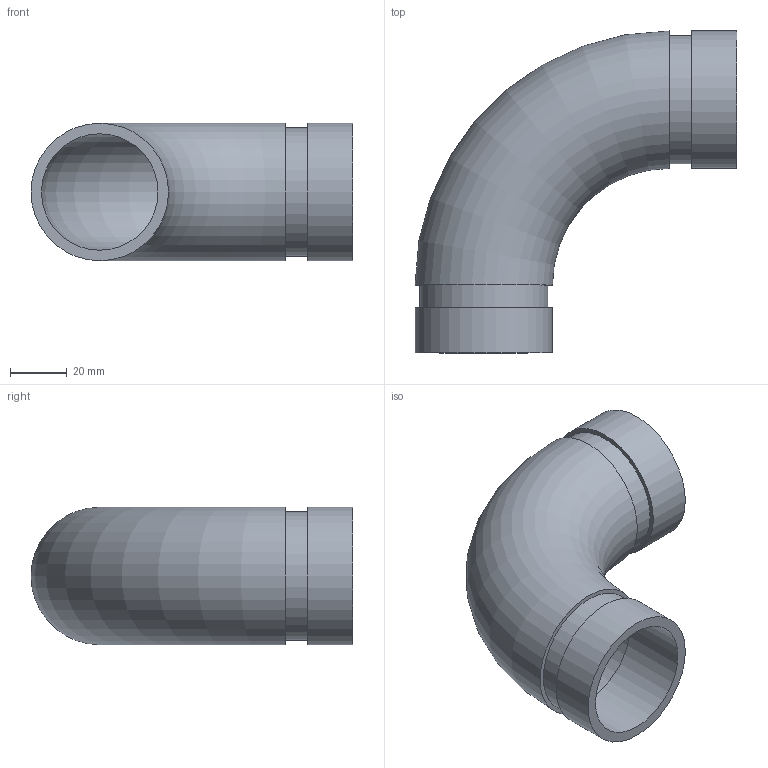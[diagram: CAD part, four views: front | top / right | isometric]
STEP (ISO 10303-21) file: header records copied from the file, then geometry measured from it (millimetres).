
FILE_DESCRIPTION(/* description */ ('VIC SS ELBOW 90 DEG LR No 410DX (OGS)'),/* implementation_level */ '2;1');
FILE_NAME(/* name */ 'C:\Files for Export\SS Duplex\STEP\Victaulic_SS-OGS_Elb 90 Deg LR_No 410DX (OGS)\Victaulic_SS-OGS_Elb 90 Deg LR_No 410DX (OGS)_1.5 (40).stp',/* time_stamp */ '2024-08-28T10:36:21+02:00',/* author */ ('CORINNE GRAY'),/* organization */ ('Victaulic'),/* preprocessor_version */ 'ST-DEVELOPER v18.1',/* originating_system */ 'Autodesk Inventor 2020',/* authorisation */ '');
FILE_SCHEMA (('AUTOMOTIVE_DESIGN { 1 0 10303 214 3 1 1 }'));
Length unit declared in the file: inch
Products named in the file (1): 410DX-01.5
Bounding box: 113.03 x 113.03 x 48.26 mm (x, y, z)
Volume: 73598.3 mm3; surface area: 43780.4 mm2
Topology: 1 solids, 1 shells, 14 faces, 30 edges, 22 vertices
Faces by surface type: cylinder 6, plane 6, torus 2
Full cylindrical faces by diameter (mm): 40.894 x2, 45.085 x2, 48.26 x2
Entity records: 467 total; most frequent: DIRECTION 84, CARTESIAN_POINT 67, ORIENTED_EDGE 60, AXIS2_PLACEMENT_3D 39, EDGE_CURVE 30, CIRCLE 24, VERTEX_POINT 22, EDGE_LOOP 20
